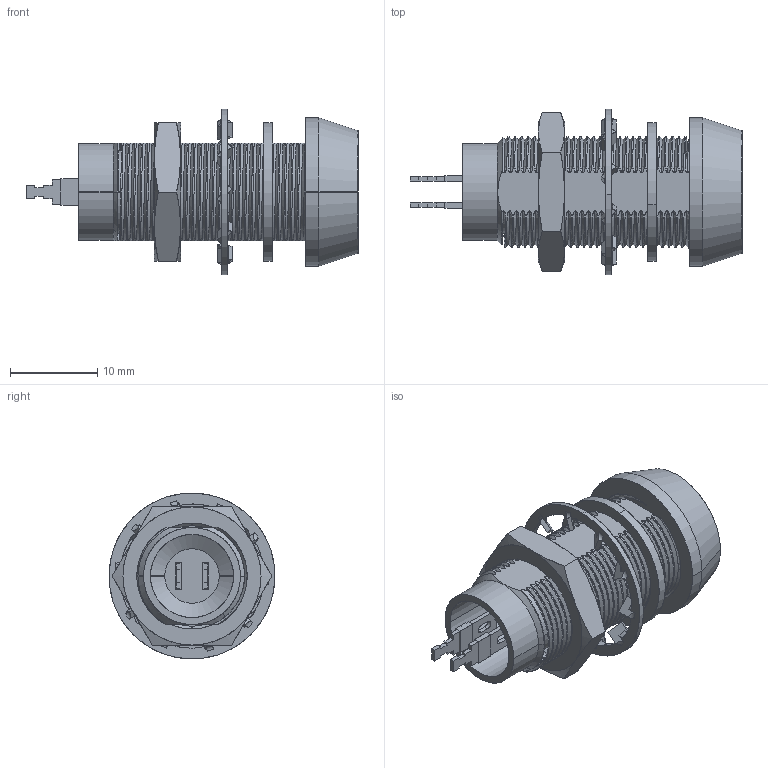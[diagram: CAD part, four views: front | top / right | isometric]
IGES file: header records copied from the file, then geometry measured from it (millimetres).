
Start section: SolidWorks IGES file using analytic representation for surfaces
Global section: file name: G:\Marl\DESIGN\Paul Robson\STEP-IGES FILES\692 Series\692 Series.IGS; native system: SolidWorks 2016; preprocessor: SolidWorks 2016; author: Paulr; date: 160804.161240; units: millimetre
Bounding box: 38 x 18.99 x 18.99 mm (x, y, z)
Surface area: 4021.3 mm2 (no closed solid volume)
Topology: 0 solids, 0 shells, 459 faces, 8003 edges, 6986 vertices
Faces by surface type: bspline 289, revolution 170
